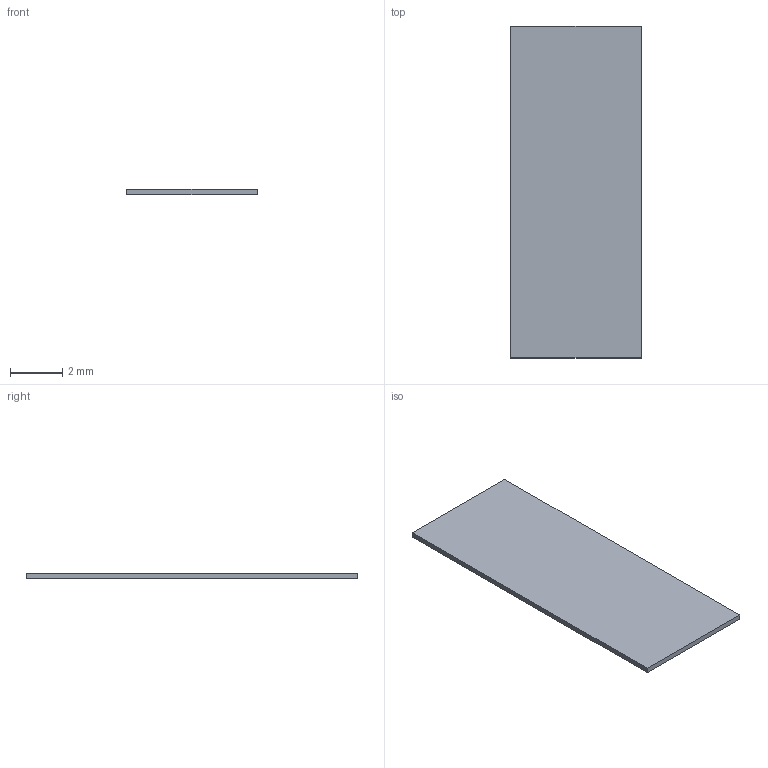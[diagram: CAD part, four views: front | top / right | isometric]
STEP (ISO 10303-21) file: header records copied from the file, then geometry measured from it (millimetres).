
FILE_DESCRIPTION(('CATIA V5 STEP Exchange','CAx-IF Rec.Pracs.--- Model Styling and Organization---1.4--- 2014-01-23'),'2;1');
FILE_NAME('F:\Firma-Sicherungskopie\Projekte\821253_Rockwell-Clear-MultiPrint-2020\Simple3D\PN-582654_1492-MHS2X12.stp','2020-11-04T07:39:38+00:00',('none'),('none'),'CATIA Version 5-6 Release 2016 SP3 HF44','CATIA V5 STEP AP214','none');
FILE_SCHEMA(('AUTOMOTIVE_DESIGN { 1 0 10303 214 1 1 1 1 }'));
Length unit declared in the file: millimetre
Products named in the file (1): 65330_HS_0-8_2-4X12_MM
Bounding box: 5 x 12.7 x 0.2 mm (x, y, z)
Volume: 12.7 mm3; surface area: 134.1 mm2
Topology: 1 solids, 1 shells, 6 faces, 12 edges, 8 vertices
Faces by surface type: plane 6
Entity records: 177 total; most frequent: CARTESIAN_POINT 27, DIRECTION 24, ORIENTED_EDGE 24, VECTOR 12, EDGE_CURVE 12, LINE 12, VERTEX_POINT 8, AXIS2_PLACEMENT_3D 7
